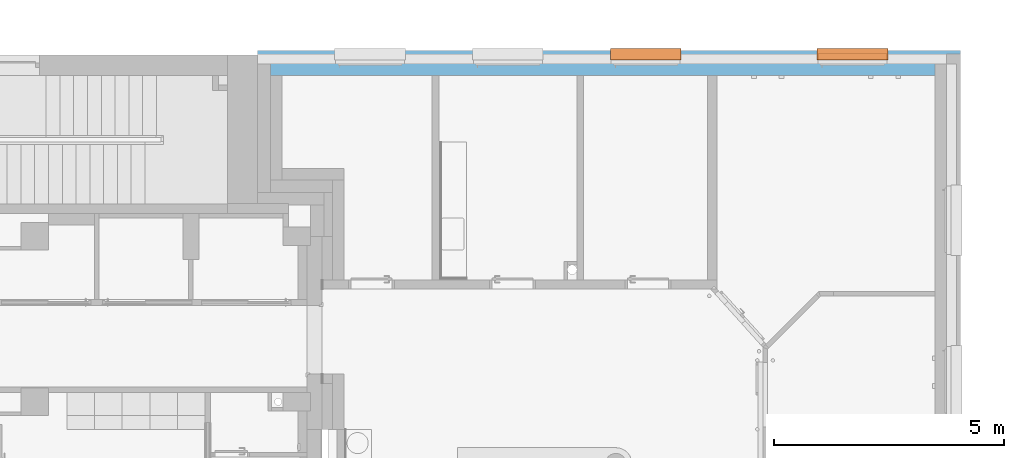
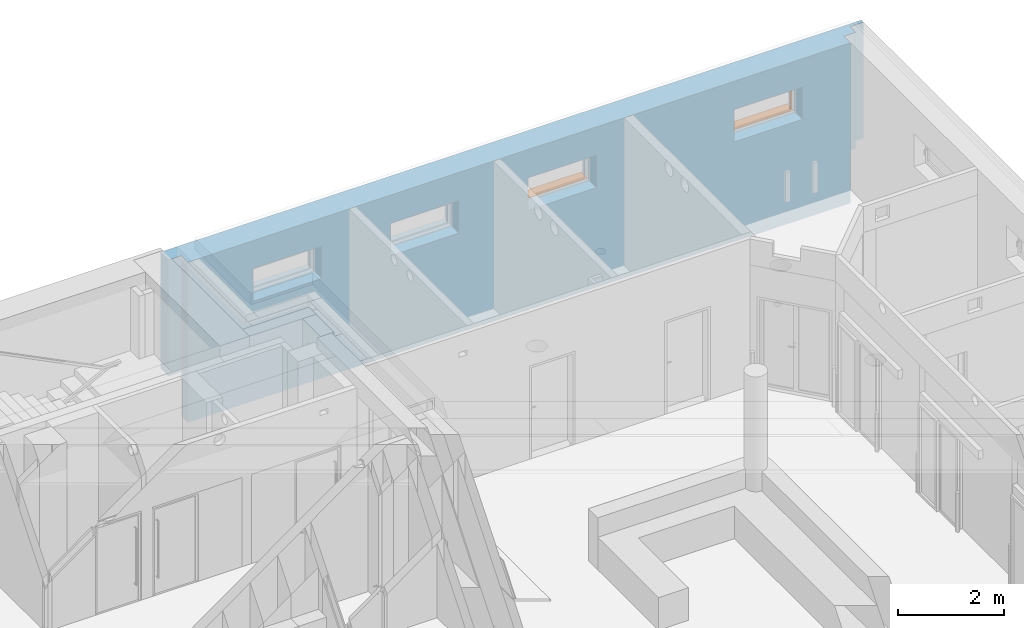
# One storey, part 122 of 140: 3 proxies, 4 openings, plus 1 element that does not belong to this part.
"""IFC4 building model written with IfcOpenShell, lengths in metres."""

from ifc_helpers import new_model, entity, si_unit, converted_unit, derived_unit, frame, origin, origin_with_axes, place, context, subcontext, project, spatial, polyline, outline, extrude, clip, bounded_halfspace, faceted_brep, source, transform, mapped, material, layer, layer_set, layer_usage, element, fill, save


model = new_model("IFC4")

# Units and contexts
model_context = context("Model", 3, precision=1e-05, world=origin())
body_context = subcontext(model_context, "Body", "Model", "MODEL_VIEW")
ifc_project = project(units=[si_unit("LENGTHUNIT", "METRE"), si_unit("AREAUNIT", "SQUARE_METRE"), si_unit("VOLUMEUNIT", "CUBIC_METRE"), si_unit("MASSUNIT", "GRAM", prefix="KILO"), converted_unit("PLANEANGLEUNIT", "DEGREE", entity("IfcPlaneAngleMeasure", 0.0174532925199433), si_unit("PLANEANGLEUNIT", "RADIAN"), dimensions=[0, 0, 0, 0, 0, 0, 0]), derived_unit("THERMALTRANSMITTANCEUNIT", [(si_unit("POWERUNIT", "WATT"), 1), (si_unit("THERMODYNAMICTEMPERATUREUNIT", "KELVIN"), -1), (si_unit("LENGTHUNIT", "METRE"), -2)]), derived_unit("VOLUMETRICFLOWRATEUNIT", [(si_unit("LENGTHUNIT", "METRE"), 3), (converted_unit("TIMEUNIT", "hour", entity("IfcTimeMeasure", 3600.0), si_unit("TIMEUNIT", "SECOND"), dimensions=[0, 0, 1, 0, 0, 0, 0]), -1), (si_unit("LENGTHUNIT", "METRE"), -1)])], contexts=[model_context])

# Site, building, storey
site_placement = place(None, origin())
site = spatial("IfcSite", under=ifc_project, at=site_placement, Name="3. ASŘ", CompositionType="ELEMENT")
building_placement = place(site_placement, origin())
building = spatial("IfcBuilding", under=site, at=building_placement, Name="Pavilon C", CompositionType="ELEMENT")
storey_placement = place(building_placement, origin())
storey = spatial("IfcBuildingStorey", under=building, at=storey_placement, Name="Půdorys 1.NP", CompositionType="ELEMENT", Elevation=0.0)

# Wall, openings, proxies
ifc_material_1 = material(Name="ZELEZOBETONOVÁ KCE")
ifc_layer_1 = layer(ifc_material_1, 0.25)
ifc_material_2 = material(Name="MINERÁLNÍ VATA")
ifc_layer_2 = layer(ifc_material_2, 0.3)
ifc_layer_set = layer_set([ifc_layer_1, ifc_layer_2])
ifc_layer_usage = layer_usage(ifc_layer_set, "AXIS2", "POSITIVE", 0.0)
wall_placement = place(storey_placement, frame((49.08, 32.3, -0.3)))
wall = element("IfcWall", 1, at=wall_placement, inside=storey, material=ifc_layer_usage, Name="ZELEZOBETONOVÁ KCE", context=body_context, shape_type="Clipping", body=[
    clip(extrude(outline(polyline([(0.280000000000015, 0.0), (14.75, 0.0), (14.75, 0.25), (15.0, 0.25), (15.0, 0.47), (15.3, 0.47), (15.3, 0.55), (0.0, 0.55), (0.0, 0.25), (0.280000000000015, 0.25), (0.280000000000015, 0.0)])), frame((-0.280000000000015, 0.0, 0.0), z_axis=(0.0, 0.0, 1.0), x_axis=(1.0, 0.0, 0.0)), (0.0, 0.0, 1.0), 3.7), bounded_halfspace(frame((9.17374999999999, 0.380000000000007, 1.02), z_axis=(0.0, 0.0, 1.0), x_axis=(0.0, -1.0, 0.0)), True, origin_with_axes(), polyline([(-0.280000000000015, 0.55), (-0.280000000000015, 0.250000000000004), (7.27595761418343e-15, 0.25), (14.47, 0.25), (14.72, 0.250000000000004), (14.72, 0.47), (15.02, 0.47), (15.02, 0.55), (-0.280000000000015, 0.55)]))),
])
opening_1_placement = place(wall_placement, frame((13.42, 0.25, 2.3), z_axis=(0.0, -1.0, 0.0), x_axis=(0.0, 0.0, 1.0)))
opening_1 = element("IfcOpeningElement", 2, at=opening_1_placement, cuts=wall, Name="Okenní otvor", ObjectType="Opening", context=body_context, shape_type="SweptSolid", body=[
    extrude(outline(polyline([(0.0, 1.5), (0.75, 1.5), (0.75, 0.0), (0.0, 0.0), (0.0, 1.5)])), origin_with_axes(), (0.0, 0.0, 1.0), 0.25),
    extrude(outline(polyline([(0.0, 1.5), (0.75, 1.5), (0.75, 0.0), (0.0, 0.0), (0.0, 1.5)])), frame((0.0, 0.0, -0.3), z_axis=(0.0, 0.0, 1.0), x_axis=(1.0, 0.0, 0.0)), (0.0, 0.0, 1.0), 0.3),
])
opening_2_placement = place(wall_placement, frame((8.92, 0.25, 2.3), z_axis=(0.0, -1.0, 0.0), x_axis=(0.0, 0.0, 1.0)))
opening_2 = element("IfcOpeningElement", 3, at=opening_2_placement, cuts=wall, Name="Okenní otvor", ObjectType="Opening", context=body_context, shape_type="SweptSolid", body=[
    extrude(outline(polyline([(0.0, 1.5), (0.75, 1.5), (0.75, 0.0), (0.0, 0.0), (0.0, 1.5)])), origin_with_axes(), (0.0, 0.0, 1.0), 0.25),
    extrude(outline(polyline([(0.0, 1.5), (0.75, 1.5), (0.75, 0.0), (0.0, 0.0), (0.0, 1.5)])), frame((0.0, 0.0, -0.3), z_axis=(0.0, 0.0, 1.0), x_axis=(1.0, 0.0, 0.0)), (0.0, 0.0, 1.0), 0.3),
])
opening_3_placement = place(wall_placement, frame((5.92, 0.25, 2.3), z_axis=(0.0, -1.0, 0.0), x_axis=(0.0, 0.0, 1.0)))
element("IfcOpeningElement", 4, at=opening_3_placement, cuts=wall, Name="Okenní otvor", ObjectType="Opening", context=body_context, shape_type="SweptSolid", body=[
    extrude(outline(polyline([(0.0, 1.5), (0.75, 1.5), (0.75, 0.0), (0.0, 0.0), (0.0, 1.5)])), origin_with_axes(), (0.0, 0.0, 1.0), 0.25),
    extrude(outline(polyline([(0.0, 1.5), (0.75, 1.5), (0.75, 0.0), (0.0, 0.0), (0.0, 1.5)])), frame((0.0, 0.0, -0.3), z_axis=(0.0, 0.0, 1.0), x_axis=(1.0, 0.0, 0.0)), (0.0, 0.0, 1.0), 0.3),
])
opening_4_placement = place(wall_placement, frame((2.92, 0.25, 2.3), z_axis=(0.0, -1.0, 0.0), x_axis=(0.0, 0.0, 1.0)))
element("IfcOpeningElement", 5, at=opening_4_placement, cuts=wall, Name="Okenní otvor", ObjectType="Opening", context=body_context, shape_type="SweptSolid", body=[
    extrude(outline(polyline([(0.0, 1.5), (0.75, 1.5), (0.75, 0.0), (0.0, 0.0), (0.0, 1.5)])), origin_with_axes(), (0.0, 0.0, 1.0), 0.25),
    extrude(outline(polyline([(0.0, 1.5), (0.75, 1.5), (0.75, 0.0), (0.0, 0.0), (0.0, 1.5)])), frame((0.0, 0.0, -0.3), z_axis=(0.0, 0.0, 1.0), x_axis=(1.0, 0.0, 0.0)), (0.0, 0.0, 1.0), 0.3),
])
ifc_material_3 = material(Name="HLINÍKOVÝ PLECH ELOXOVANÝ")
shared_shape_1 = source(origin_with_axes(), body_context, "Body", "Brep", [
    faceted_brep([(0.0, -0.3, 0.0), (0.0, -0.092, 0.0), (0.0, -0.092, 0.005), (0.0, -0.3, 0.005), (1.5, -0.3, 0.0), (1.5, -0.3, 0.005), (1.5, -0.092, 0.005), (1.5, -0.092, 0.0), (-0.02, -0.3, 0.0), (-0.02, -0.335, 0.0), (1.52, -0.335, 0.0), (1.52, -0.3, 0.0), (1.52, -0.3, 0.005), (1.52, -0.34, 0.005), (-0.02, -0.34, 0.005), (-0.02, -0.3, 0.005), (-0.02, -0.34, -0.025), (-0.02, -0.335, -0.025), (1.52, -0.335, -0.025), (1.52, -0.34, -0.025)], [[[0, 1, 2, 3]], [[4, 5, 6, 7]], [[1, 0, 8, 9, 10, 11, 4, 7]], [[2, 1, 7, 6]], [[3, 2, 6, 5, 12, 13, 14, 15]], [[8, 15, 14, 16, 17, 9]], [[11, 10, 18, 19, 13, 12]], [[15, 8, 0, 3]], [[5, 4, 11, 12]], [[16, 14, 13, 19]], [[17, 16, 19, 18]], [[9, 17, 18, 10]]], orient=[[False], [False], [False], [False], [False], [False], [False], [False], [False], [False], [False], [False]]),
    faceted_brep([(-0.02, -0.3, 0.0), (-0.02, -0.092, 0.0), (-0.02, -0.092, 0.005), (-0.02, -0.3, 0.005), (0.0, -0.3, 0.0), (0.0, -0.3, 0.005), (0.0, -0.092, 0.005), (0.0, -0.092, 0.0)], [[[0, 1, 2, 3]], [[4, 5, 6, 7]], [[1, 0, 4, 7]], [[2, 1, 7, 6]], [[3, 2, 6, 5]], [[0, 3, 5, 4]]], orient=[[False], [False], [False], [False], [False], [False]]),
    faceted_brep([(1.5, -0.3, 0.0), (1.5, -0.092, 0.0), (1.5, -0.092, 0.005), (1.5, -0.3, 0.005), (1.52, -0.3, 0.0), (1.52, -0.3, 0.005), (1.52, -0.092, 0.005), (1.52, -0.092, 0.0)], [[[0, 1, 2, 3]], [[4, 5, 6, 7]], [[1, 0, 4, 7]], [[2, 1, 7, 6]], [[3, 2, 6, 5]], [[0, 3, 5, 4]]], orient=[[False], [False], [False], [False], [False], [False]]),
])
proxy_1_placement = place(opening_1_placement, frame((0.0, 0.0, 0.0), z_axis=(1.0, 0.0, 0.0), x_axis=(0.0, 1.0, 0.0)))
proxy_1 = element("IfcBuildingElementProxy", 6, at=proxy_1_placement, inside=storey, material=ifc_material_3, Name="Parapet vnější", context=body_context, shape_type="MappedRepresentation", body=[
    mapped(shared_shape_1, transform((0.0, 0.0, 0.0), x_axis=(1.0, 0.0, 0.0), y_axis=(0.0, 1.0, 0.0), z_axis=(0.0, 0.0, 1.0), scale=1.0)),
])
fill(opening_1, proxy_1)
shared_shape_2 = source(origin_with_axes(), body_context, "Body", "Brep", [
    faceted_brep([(1.5, -0.232, 0.75), (1.5, -0.232, 0.95), (1.5, -0.092, 0.95), (1.5, -0.092, 0.75), (1.5, -0.094, 0.75), (1.5, -0.094, 0.948), (1.5, -0.23, 0.948), (1.5, -0.23, 0.75), (0.0, -0.23, 0.75), (0.0, -0.23, 0.948), (0.0, -0.094, 0.948), (0.0, -0.094, 0.75), (0.0, -0.092, 0.75), (0.0, -0.092, 0.95), (0.0, -0.232, 0.95), (0.0, -0.232, 0.75)], [[[0, 1, 2, 3, 4, 5, 6, 7]], [[8, 9, 10, 11, 12, 13, 14, 15]], [[7, 8, 15, 0]], [[6, 9, 8, 7]], [[5, 10, 9, 6]], [[4, 11, 10, 5]], [[3, 12, 11, 4]], [[2, 13, 12, 3]], [[1, 14, 13, 2]], [[0, 15, 14, 1]]], orient=[[False], [False], [False], [False], [False], [False], [False], [False], [False], [False]]),
    faceted_brep([(1.5, -0.23, 0.75), (1.5, -0.23, 0.948), (1.5, -0.094, 0.948), (1.5, -0.094, 0.75), (1.498, -0.094, 0.75), (1.498, -0.094, 0.948), (1.498, -0.23, 0.948), (1.498, -0.23, 0.75)], [[[0, 1, 2, 3]], [[4, 5, 6, 7]], [[3, 4, 7, 0]], [[2, 5, 4, 3]], [[1, 6, 5, 2]], [[0, 7, 6, 1]]], orient=[[False], [False], [False], [False], [False], [False]]),
    faceted_brep([(0.002, -0.23, 0.75), (0.002, -0.23, 0.948), (0.002, -0.094, 0.948), (0.002, -0.094, 0.75), (0.0, -0.094, 0.75), (0.0, -0.094, 0.948), (0.0, -0.23, 0.948), (0.0, -0.23, 0.75)], [[[0, 1, 2, 3]], [[4, 5, 6, 7]], [[3, 4, 7, 0]], [[2, 5, 4, 3]], [[1, 6, 5, 2]], [[0, 7, 6, 1]]], orient=[[False], [False], [False], [False], [False], [False]]),
    faceted_brep([(1.498, -0.152, 0.0), (1.458, -0.152, 0.0), (1.458, -0.172, 0.0), (1.498, -0.172, 0.0), (1.498, -0.172, 0.769), (1.458, -0.172, 0.769), (1.458, -0.152, 0.769), (1.498, -0.152, 0.769)], [[[0, 1, 2, 3]], [[4, 5, 6, 7]], [[3, 4, 7, 0]], [[2, 5, 4, 3]], [[1, 6, 5, 2]], [[0, 7, 6, 1]]], orient=[[False], [False], [False], [False], [False], [False]]),
    faceted_brep([(0.042, -0.152, 0.0), (0.002, -0.152, 0.0), (0.002, -0.172, 0.0), (0.042, -0.172, 0.0), (0.042, -0.172, 0.769), (0.002, -0.172, 0.769), (0.002, -0.152, 0.769), (0.042, -0.152, 0.769)], [[[0, 1, 2, 3]], [[4, 5, 6, 7]], [[3, 4, 7, 0]], [[2, 5, 4, 3]], [[1, 6, 5, 2]], [[0, 7, 6, 1]]], orient=[[False], [False], [False], [False], [False], [False]]),
    faceted_brep([(1.458, -0.122, 0.6021), (1.458, -0.122, 0.5871), (1.458, -0.202, 0.5871), (1.458, -0.202, 0.6021), (0.042, -0.202, 0.6021), (0.042, -0.202, 0.5871), (0.042, -0.122, 0.5871), (0.042, -0.122, 0.6021)], [[[0, 1, 2, 3]], [[4, 5, 6, 7]], [[3, 4, 7, 0]], [[2, 5, 4, 3]], [[1, 6, 5, 2]], [[0, 7, 6, 1]]], orient=[[False], [False], [False], [False], [False], [False]]),
    faceted_brep([(1.458, -0.122, 0.6031), (1.458, -0.122, 0.6021), (1.458, -0.202, 0.6021), (1.458, -0.202, 0.6031), (0.042, -0.202, 0.6031), (0.042, -0.202, 0.6021), (0.042, -0.122, 0.6021), (0.042, -0.122, 0.6031)], [[[0, 1, 2, 3]], [[4, 5, 6, 7]], [[3, 4, 7, 0]], [[2, 5, 4, 3]], [[1, 6, 5, 2]], [[0, 7, 6, 1]]], orient=[[False], [False], [False], [False], [False], [False]]),
    faceted_brep([(1.458, -0.122, 0.6041), (1.458, -0.122, 0.6031), (1.458, -0.202, 0.6031), (1.458, -0.202, 0.6041), (0.042, -0.202, 0.6041), (0.042, -0.202, 0.6031), (0.042, -0.122, 0.6031), (0.042, -0.122, 0.6041)], [[[0, 1, 2, 3]], [[4, 5, 6, 7]], [[3, 4, 7, 0]], [[2, 5, 4, 3]], [[1, 6, 5, 2]], [[0, 7, 6, 1]]], orient=[[False], [False], [False], [False], [False], [False]]),
    faceted_brep([(1.458, -0.122, 0.6051), (1.458, -0.122, 0.6041), (1.458, -0.202, 0.6041), (1.458, -0.202, 0.6051), (0.042, -0.202, 0.6051), (0.042, -0.202, 0.6041), (0.042, -0.122, 0.6041), (0.042, -0.122, 0.6051)], [[[0, 1, 2, 3]], [[4, 5, 6, 7]], [[3, 4, 7, 0]], [[2, 5, 4, 3]], [[1, 6, 5, 2]], [[0, 7, 6, 1]]], orient=[[False], [False], [False], [False], [False], [False]]),
    faceted_brep([(1.458, -0.122, 0.6061), (1.458, -0.122, 0.6051), (1.458, -0.202, 0.6051), (1.458, -0.202, 0.6061), (0.042, -0.202, 0.6061), (0.042, -0.202, 0.6051), (0.042, -0.122, 0.6051), (0.042, -0.122, 0.6061)], [[[0, 1, 2, 3]], [[4, 5, 6, 7]], [[3, 4, 7, 0]], [[2, 5, 4, 3]], [[1, 6, 5, 2]], [[0, 7, 6, 1]]], orient=[[False], [False], [False], [False], [False], [False]]),
    faceted_brep([(1.458, -0.122, 0.6071), (1.458, -0.122, 0.6061), (1.458, -0.202, 0.6061), (1.458, -0.202, 0.6071), (0.042, -0.202, 0.6071), (0.042, -0.202, 0.6061), (0.042, -0.122, 0.6061), (0.042, -0.122, 0.6071)], [[[0, 1, 2, 3]], [[4, 5, 6, 7]], [[3, 4, 7, 0]], [[2, 5, 4, 3]], [[1, 6, 5, 2]], [[0, 7, 6, 1]]], orient=[[False], [False], [False], [False], [False], [False]]),
    faceted_brep([(1.458, -0.122, 0.6081), (1.458, -0.122, 0.6071), (1.458, -0.202, 0.6071), (1.458, -0.202, 0.6081), (0.042, -0.202, 0.6081), (0.042, -0.202, 0.6071), (0.042, -0.122, 0.6071), (0.042, -0.122, 0.6081)], [[[0, 1, 2, 3]], [[4, 5, 6, 7]], [[3, 4, 7, 0]], [[2, 5, 4, 3]], [[1, 6, 5, 2]], [[0, 7, 6, 1]]], orient=[[False], [False], [False], [False], [False], [False]]),
    faceted_brep([(1.458, -0.122, 0.6091), (1.458, -0.122, 0.6081), (1.458, -0.202, 0.6081), (1.458, -0.202, 0.6091), (0.042, -0.202, 0.6091), (0.042, -0.202, 0.6081), (0.042, -0.122, 0.6081), (0.042, -0.122, 0.6091)], [[[0, 1, 2, 3]], [[4, 5, 6, 7]], [[3, 4, 7, 0]], [[2, 5, 4, 3]], [[1, 6, 5, 2]], [[0, 7, 6, 1]]], orient=[[False], [False], [False], [False], [False], [False]]),
    faceted_brep([(1.458, -0.122, 0.6101), (1.458, -0.122, 0.6091), (1.458, -0.202, 0.6091), (1.458, -0.202, 0.6101), (0.042, -0.202, 0.6101), (0.042, -0.202, 0.6091), (0.042, -0.122, 0.6091), (0.042, -0.122, 0.6101)], [[[0, 1, 2, 3]], [[4, 5, 6, 7]], [[3, 4, 7, 0]], [[2, 5, 4, 3]], [[1, 6, 5, 2]], [[0, 7, 6, 1]]], orient=[[False], [False], [False], [False], [False], [False]]),
    faceted_brep([(1.458, -0.122, 0.6111), (1.458, -0.122, 0.6101), (1.458, -0.202, 0.6101), (1.458, -0.202, 0.6111), (0.042, -0.202, 0.6111), (0.042, -0.202, 0.6101), (0.042, -0.122, 0.6101), (0.042, -0.122, 0.6111)], [[[0, 1, 2, 3]], [[4, 5, 6, 7]], [[3, 4, 7, 0]], [[2, 5, 4, 3]], [[1, 6, 5, 2]], [[0, 7, 6, 1]]], orient=[[False], [False], [False], [False], [False], [False]]),
    faceted_brep([(1.458, -0.122, 0.6121), (1.458, -0.122, 0.6111), (1.458, -0.202, 0.6111), (1.458, -0.202, 0.6121), (0.042, -0.202, 0.6121), (0.042, -0.202, 0.6111), (0.042, -0.122, 0.6111), (0.042, -0.122, 0.6121)], [[[0, 1, 2, 3]], [[4, 5, 6, 7]], [[3, 4, 7, 0]], [[2, 5, 4, 3]], [[1, 6, 5, 2]], [[0, 7, 6, 1]]], orient=[[False], [False], [False], [False], [False], [False]]),
    faceted_brep([(1.458, -0.122, 0.6131), (1.458, -0.122, 0.6121), (1.458, -0.202, 0.6121), (1.458, -0.202, 0.6131), (0.042, -0.202, 0.6131), (0.042, -0.202, 0.6121), (0.042, -0.122, 0.6121), (0.042, -0.122, 0.6131)], [[[0, 1, 2, 3]], [[4, 5, 6, 7]], [[3, 4, 7, 0]], [[2, 5, 4, 3]], [[1, 6, 5, 2]], [[0, 7, 6, 1]]], orient=[[False], [False], [False], [False], [False], [False]]),
    faceted_brep([(1.458, -0.122, 0.6141), (1.458, -0.122, 0.6131), (1.458, -0.202, 0.6131), (1.458, -0.202, 0.6141), (0.042, -0.202, 0.6141), (0.042, -0.202, 0.6131), (0.042, -0.122, 0.6131), (0.042, -0.122, 0.6141)], [[[0, 1, 2, 3]], [[4, 5, 6, 7]], [[3, 4, 7, 0]], [[2, 5, 4, 3]], [[1, 6, 5, 2]], [[0, 7, 6, 1]]], orient=[[False], [False], [False], [False], [False], [False]]),
    faceted_brep([(1.458, -0.122, 0.6151), (1.458, -0.122, 0.6141), (1.458, -0.202, 0.6141), (1.458, -0.202, 0.6151), (0.042, -0.202, 0.6151), (0.042, -0.202, 0.6141), (0.042, -0.122, 0.6141), (0.042, -0.122, 0.6151)], [[[0, 1, 2, 3]], [[4, 5, 6, 7]], [[3, 4, 7, 0]], [[2, 5, 4, 3]], [[1, 6, 5, 2]], [[0, 7, 6, 1]]], orient=[[False], [False], [False], [False], [False], [False]]),
    faceted_brep([(1.458, -0.122, 0.6161), (1.458, -0.122, 0.6151), (1.458, -0.202, 0.6151), (1.458, -0.202, 0.6161), (0.042, -0.202, 0.6161), (0.042, -0.202, 0.6151), (0.042, -0.122, 0.6151), (0.042, -0.122, 0.6161)], [[[0, 1, 2, 3]], [[4, 5, 6, 7]], [[3, 4, 7, 0]], [[2, 5, 4, 3]], [[1, 6, 5, 2]], [[0, 7, 6, 1]]], orient=[[False], [False], [False], [False], [False], [False]]),
    faceted_brep([(1.458, -0.123299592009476, 0.645125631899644), (1.458, -0.12305858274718, 0.644155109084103), (1.458, -0.200700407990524, 0.624874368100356), (1.458, -0.20094141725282, 0.625844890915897), (0.042, -0.20094141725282, 0.625844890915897), (0.042, -0.200700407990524, 0.624874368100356), (0.042, -0.12305858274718, 0.644155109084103), (0.042, -0.123299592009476, 0.645125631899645)], [[[0, 1, 2, 3]], [[4, 5, 6, 7]], [[3, 4, 7, 0]], [[2, 5, 4, 3]], [[1, 6, 5, 2]], [[0, 7, 6, 1]]], orient=[[False], [False], [False], [False], [False], [False]]),
    faceted_brep([(1.458, -0.127608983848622, 0.700433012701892), (1.458, -0.127108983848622, 0.699566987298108), (1.458, -0.196391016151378, 0.659566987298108), (1.458, -0.196891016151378, 0.660433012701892), (0.042, -0.196891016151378, 0.660433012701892), (0.042, -0.196391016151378, 0.659566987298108), (0.042, -0.127108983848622, 0.699566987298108), (0.042, -0.127608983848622, 0.700433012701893)], [[[0, 1, 2, 3]], [[4, 5, 6, 7]], [[3, 4, 7, 0]], [[2, 5, 4, 3]], [[1, 6, 5, 2]], [[0, 7, 6, 1]]], orient=[[False], [False], [False], [False], [False], [False]]),
    faceted_brep([(1.458, -0.127608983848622, 0.745433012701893), (1.458, -0.127108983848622, 0.744566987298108), (1.458, -0.196391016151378, 0.704566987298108), (1.458, -0.196891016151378, 0.705433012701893), (0.042, -0.196891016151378, 0.705433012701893), (0.042, -0.196391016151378, 0.704566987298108), (0.042, -0.127108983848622, 0.744566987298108), (0.042, -0.127608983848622, 0.745433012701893)], [[[0, 1, 2, 3]], [[4, 5, 6, 7]], [[3, 4, 7, 0]], [[2, 5, 4, 3]], [[1, 6, 5, 2]], [[0, 7, 6, 1]]], orient=[[False], [False], [False], [False], [False], [False]]),
])
proxy_2_placement = place(opening_1_placement, frame((0.0, 0.0, 0.0), z_axis=(1.0, 0.0, 0.0), x_axis=(0.0, 1.0, 0.0)))
proxy_2 = element("IfcBuildingElementProxy", 7, at=proxy_2_placement, inside=storey, Name="Žaluzie", context=body_context, shape_type="MappedRepresentation", body=[
    mapped(shared_shape_2, transform((0.0, 0.0, 0.0), x_axis=(1.0, 0.0, 0.0), y_axis=(0.0, 1.0, 0.0), z_axis=(0.0, 0.0, 1.0), scale=1.0)),
])
fill(opening_1, proxy_2)
ifc_material_4 = material(Name="HLINÍKOVÝ PLECH ELOXOVANÝ")
shared_shape_3 = source(origin_with_axes(), body_context, "Body", "Brep", [
    faceted_brep([(0.0, -0.3, 0.0), (0.0, -0.092, 0.0), (0.0, -0.092, 0.005), (0.0, -0.3, 0.005), (1.5, -0.3, 0.0), (1.5, -0.3, 0.005), (1.5, -0.092, 0.005), (1.5, -0.092, 0.0), (-0.02, -0.3, 0.0), (-0.02, -0.335, 0.0), (1.52, -0.335, 0.0), (1.52, -0.3, 0.0), (1.52, -0.3, 0.005), (1.52, -0.34, 0.005), (-0.02, -0.34, 0.005), (-0.02, -0.3, 0.005), (-0.02, -0.34, -0.025), (-0.02, -0.335, -0.025), (1.52, -0.335, -0.025), (1.52, -0.34, -0.025)], [[[0, 1, 2, 3]], [[4, 5, 6, 7]], [[1, 0, 8, 9, 10, 11, 4, 7]], [[2, 1, 7, 6]], [[3, 2, 6, 5, 12, 13, 14, 15]], [[8, 15, 14, 16, 17, 9]], [[11, 10, 18, 19, 13, 12]], [[15, 8, 0, 3]], [[5, 4, 11, 12]], [[16, 14, 13, 19]], [[17, 16, 19, 18]], [[9, 17, 18, 10]]], orient=[[False], [False], [False], [False], [False], [False], [False], [False], [False], [False], [False], [False]]),
    faceted_brep([(-0.02, -0.3, 0.0), (-0.02, -0.092, 0.0), (-0.02, -0.092, 0.005), (-0.02, -0.3, 0.005), (0.0, -0.3, 0.0), (0.0, -0.3, 0.005), (0.0, -0.092, 0.005), (0.0, -0.092, 0.0)], [[[0, 1, 2, 3]], [[4, 5, 6, 7]], [[1, 0, 4, 7]], [[2, 1, 7, 6]], [[3, 2, 6, 5]], [[0, 3, 5, 4]]], orient=[[False], [False], [False], [False], [False], [False]]),
    faceted_brep([(1.5, -0.3, 0.0), (1.5, -0.092, 0.0), (1.5, -0.092, 0.005), (1.5, -0.3, 0.005), (1.52, -0.3, 0.0), (1.52, -0.3, 0.005), (1.52, -0.092, 0.005), (1.52, -0.092, 0.0)], [[[0, 1, 2, 3]], [[4, 5, 6, 7]], [[1, 0, 4, 7]], [[2, 1, 7, 6]], [[3, 2, 6, 5]], [[0, 3, 5, 4]]], orient=[[False], [False], [False], [False], [False], [False]]),
])
proxy_3_placement = place(opening_2_placement, frame((0.0, 0.0, 0.0), z_axis=(1.0, 0.0, 0.0), x_axis=(0.0, 1.0, 0.0)))
proxy_3 = element("IfcBuildingElementProxy", 8, at=proxy_3_placement, inside=storey, material=ifc_material_4, Name="Parapet vnější", context=body_context, shape_type="MappedRepresentation", body=[
    mapped(shared_shape_3, transform((0.0, 0.0, 0.0), x_axis=(1.0, 0.0, 0.0), y_axis=(0.0, 1.0, 0.0), z_axis=(0.0, 0.0, 1.0), scale=1.0)),
])
fill(opening_2, proxy_3)

save(model, "model.ifc")
